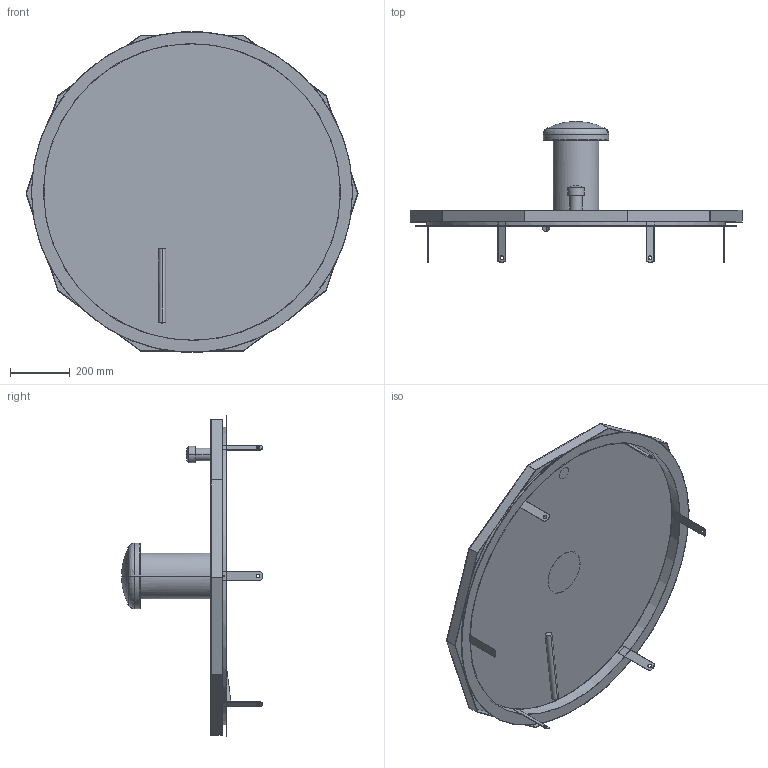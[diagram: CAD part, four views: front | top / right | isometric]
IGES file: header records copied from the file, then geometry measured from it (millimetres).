
Start section:  PTC IGES file: 52287750.igs
Global section: file name: 52287750.igs; native system: Creo Parametric by PTC Inc.; preprocessor: 2022162; author: wep; organization: Unknown; date: 20240910.090129; units: millimetre
Bounding box: 1112.45 x 472 x 1073.19 mm (x, y, z)
Surface area: 3049254.7 mm2 (no closed solid volume)
Topology: 0 solids, 0 shells, 110 faces, 562 edges, 556 vertices
Faces by surface type: bspline 62, revolution 48
